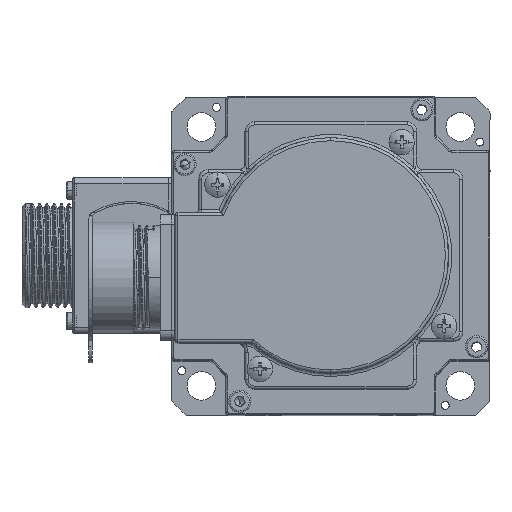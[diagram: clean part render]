
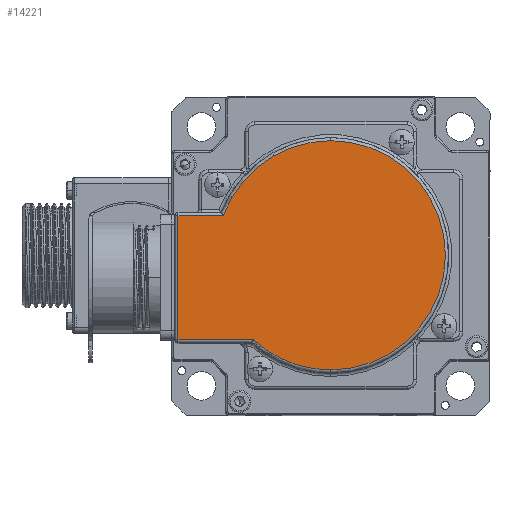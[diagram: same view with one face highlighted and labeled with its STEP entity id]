
A CAD part, top view. The second image highlights one B-rep face of the part: STEP entity #14221.
In plain terms, the highlighted planar face has unit normal (0, 0, 1).
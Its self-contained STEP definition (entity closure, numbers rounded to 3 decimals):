
#491 = LINE ( 'NONE', #29191, #5868 ) ;
#697 = DIRECTION ( 'NONE',  ( 0., 0., 1. ) ) ;
#926 = DIRECTION ( 'NONE',  ( 1., 0., 0. ) ) ;
#1557 = AXIS2_PLACEMENT_3D ( 'NONE', #16603, #697, #16832 ) ;
#1628 = ORIENTED_EDGE ( 'NONE', *, *, #11620, .T. ) ;
#3093 = CIRCLE ( 'NONE', #11642, 36. ) ;
#4166 = ORIENTED_EDGE ( 'NONE', *, *, #5297, .T. ) ;
#4213 = EDGE_CURVE ( 'NONE', #29165, #12878, #10906, .T. ) ;
#5019 = VECTOR ( 'NONE', #28960, 1000. ) ;
#5143 = DIRECTION ( 'NONE',  ( 0., 1., 0. ) ) ;
#5297 = EDGE_CURVE ( 'NONE', #29787, #20970, #491, .T. ) ;
#5868 = VECTOR ( 'NONE', #34335, 1000. ) ;
#6662 = CIRCLE ( 'NONE', #1557, 36. ) ;
#6796 = FACE_OUTER_BOUND ( 'NONE', #33416, .T. ) ;
#7234 = DIRECTION ( 'NONE',  ( 0., 1., 0. ) ) ;
#8033 = DIRECTION ( 'NONE',  ( 0., 0., 1. ) ) ;
#10349 = CARTESIAN_POINT ( 'NONE',  ( -58.065, 25.199, 49.75 ) ) ;
#10400 = LINE ( 'NONE', #10349, #5019 ) ;
#10906 = CIRCLE ( 'NONE', #19381, 36. ) ;
#11620 = EDGE_CURVE ( 'NONE', #12878, #24560, #3093, .T. ) ;
#11642 = AXIS2_PLACEMENT_3D ( 'NONE', #26183, #13011, #34213 ) ;
#12878 = VERTEX_POINT ( 'NONE', #13754 ) ;
#13011 = DIRECTION ( 'NONE',  ( 0., 0., 1. ) ) ;
#13262 = CARTESIAN_POINT ( 'NONE',  ( -57.065, 25.199, 49.75 ) ) ;
#13754 = CARTESIAN_POINT ( 'NONE',  ( -9.065, -23.301, 49.75 ) ) ;
#14026 = VECTOR ( 'NONE', #926, 1000. ) ;
#14221 = ADVANCED_FACE ( 'NONE', ( #6796 ), #26319, .T. ) ;
#15818 = EDGE_CURVE ( 'NONE', #23902, #29787, #10400, .T. ) ;
#16122 = EDGE_CURVE ( 'NONE', #24560, #23902, #6662, .T. ) ;
#16603 = CARTESIAN_POINT ( 'NONE',  ( -9.065, 12.699, 49.75 ) ) ;
#16832 = DIRECTION ( 'NONE',  ( 0., 1., 0. ) ) ;
#18117 = EDGE_CURVE ( 'NONE', #20970, #29165, #18623, .T. ) ;
#18623 = LINE ( 'NONE', #29774, #14026 ) ;
#18856 = ORIENTED_EDGE ( 'NONE', *, *, #15818, .T. ) ;
#18935 = CARTESIAN_POINT ( 'NONE',  ( -9.065, 48.699, 49.75 ) ) ;
#19381 = AXIS2_PLACEMENT_3D ( 'NONE', #20851, #31352, #7234 ) ;
#20851 = CARTESIAN_POINT ( 'NONE',  ( -9.065, 12.699, 49.75 ) ) ;
#20970 = VERTEX_POINT ( 'NONE', #33905 ) ;
#21543 = ORIENTED_EDGE ( 'NONE', *, *, #18117, .T. ) ;
#22423 = ORIENTED_EDGE ( 'NONE', *, *, #4213, .T. ) ;
#23902 = VERTEX_POINT ( 'NONE', #24686 ) ;
#23955 = CARTESIAN_POINT ( 'NONE',  ( -33.432, -13.801, 49.75 ) ) ;
#24560 = VERTEX_POINT ( 'NONE', #18935 ) ;
#24686 = CARTESIAN_POINT ( 'NONE',  ( -42.825, 25.199, 49.75 ) ) ;
#25993 = AXIS2_PLACEMENT_3D ( 'NONE', #31924, #8033, #5143 ) ;
#26183 = CARTESIAN_POINT ( 'NONE',  ( -9.065, 12.699, 49.75 ) ) ;
#26319 = PLANE ( 'NONE',  #25993 ) ;
#28960 = DIRECTION ( 'NONE',  ( -1., 0., 0. ) ) ;
#29165 = VERTEX_POINT ( 'NONE', #23955 ) ;
#29191 = CARTESIAN_POINT ( 'NONE',  ( -57.065, -14.801, 49.75 ) ) ;
#29774 = CARTESIAN_POINT ( 'NONE',  ( -33.819, -13.801, 49.75 ) ) ;
#29787 = VERTEX_POINT ( 'NONE', #13262 ) ;
#31352 = DIRECTION ( 'NONE',  ( 0., 0., 1. ) ) ;
#31924 = CARTESIAN_POINT ( 'NONE',  ( -9.065, 12.699, 49.75 ) ) ;
#32628 = ORIENTED_EDGE ( 'NONE', *, *, #16122, .T. ) ;
#33416 = EDGE_LOOP ( 'NONE', ( #18856, #4166, #21543, #22423, #1628, #32628 ) ) ;
#33905 = CARTESIAN_POINT ( 'NONE',  ( -57.065, -13.801, 49.75 ) ) ;
#34213 = DIRECTION ( 'NONE',  ( 0., 1., 0. ) ) ;
#34335 = DIRECTION ( 'NONE',  ( 0., -1., 0. ) ) ;
